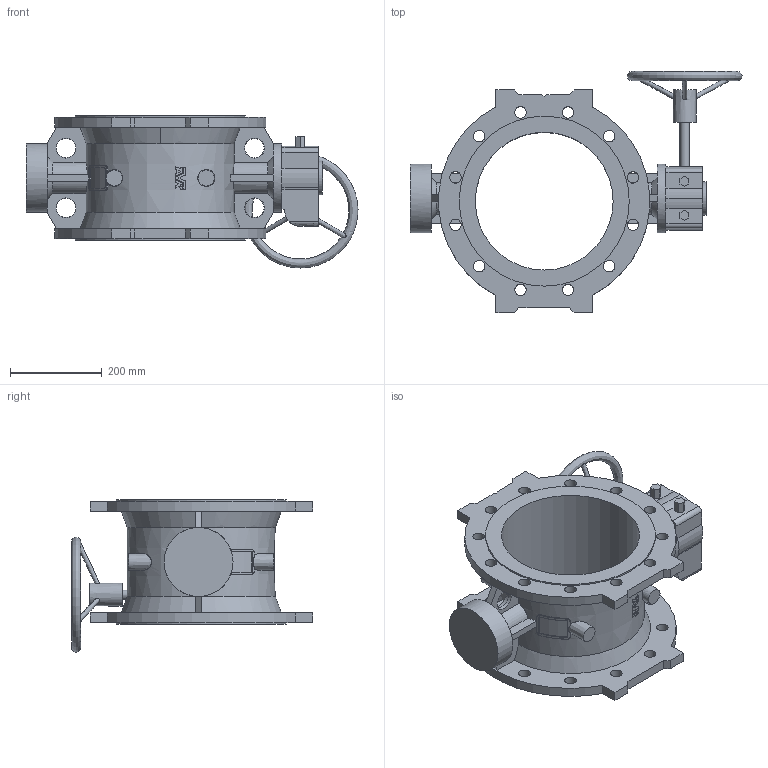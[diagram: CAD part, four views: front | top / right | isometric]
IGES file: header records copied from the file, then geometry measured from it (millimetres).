
Start section: SolidWorks IGES file using analytic representation for surfaces
Global section: file name: \\avksan2\techshare\PBM outline export from Enovia\O_756_1_DN300_0XX00_AA0_igs.igs; native system: SolidWorks 2012; preprocessor: SolidWorks 2012; author: pbm; date: 160304.123411; units: millimetre
Bounding box: 722.41 x 524.5 x 330.99 mm (x, y, z)
Surface area: 1252253 mm2 (no closed solid volume)
Topology: 0 solids, 0 shells, 375 faces, 3014 edges, 2931 vertices
Faces by surface type: bspline 276, revolution 99
